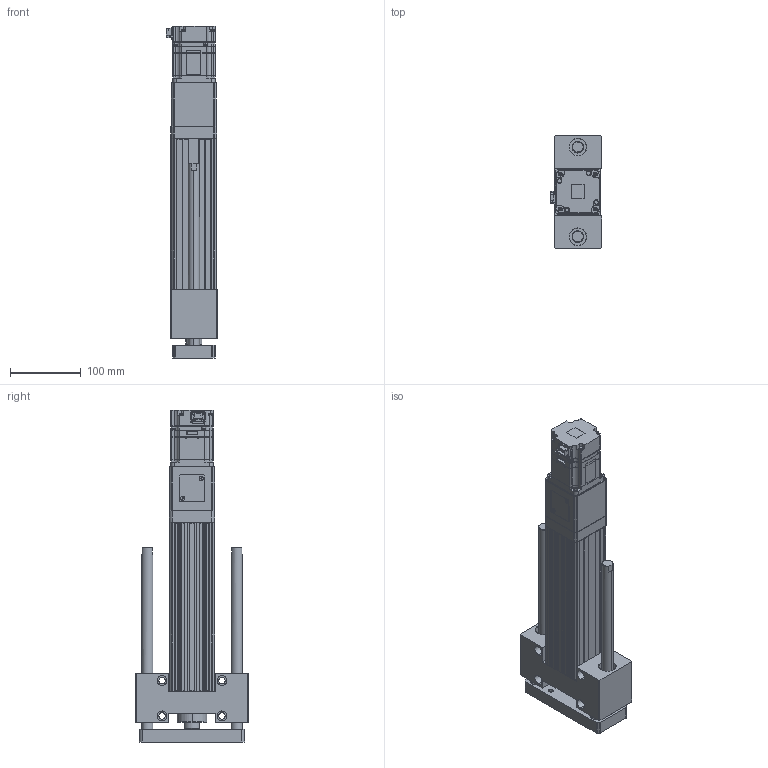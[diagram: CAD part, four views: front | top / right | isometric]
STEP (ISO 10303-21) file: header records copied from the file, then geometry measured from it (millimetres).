
FILE_DESCRIPTION (( 'STEP AP203' ), '1' );
FILE_NAME ('ANS065-HS150-05(10)-W20.STEP', '2019-03-01T04:17:44', ( 'user' ), ( '' ), 'SwSTEP 2.0', 'SolidWorks 2013', '' );
FILE_SCHEMA (( 'CONFIG_CONTROL_DESIGN' ));
Length unit declared in the file: millimetre
Products named in the file (4): ANS065 HS150 VER2; ANS065 ROD ST150 G; sgmjv_02a_a21; ANS065-HS150-05(10)-W20
Assembly tree (3 placements, depth 2):
  ANS065-HS150-05(10)-W20
    ANS065 HS150 VER2
    ANS065 ROD ST150 G
    sgmjv_02a_a21
Bounding box: 72.3 x 160 x 470.6 mm (x, y, z)
Volume: 1773860.9 mm3; surface area: 366098 mm2
Topology: 3 solids, 7 shells, 1237 faces, 3245 edges, 2091 vertices
Faces by surface type: plane 697, cylinder 430, cone 110
Entity records: 38305 total; most frequent: CARTESIAN_POINT 6793, DIRECTION 6569, ORIENTED_EDGE 6434, EDGE_CURVE 3217, LINE 2207, VECTOR 2207, AXIS2_PLACEMENT_3D 2181, VERTEX_POINT 2091
